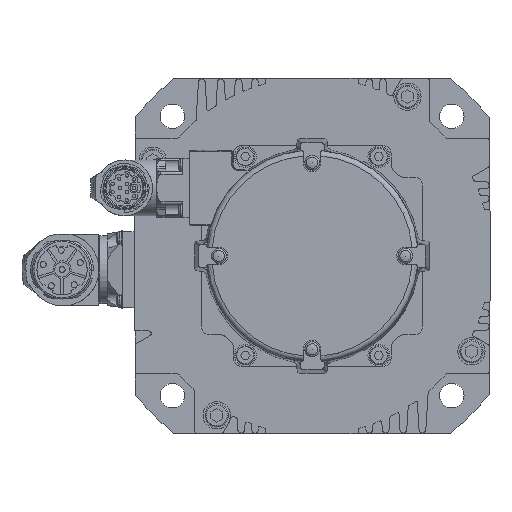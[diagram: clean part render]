
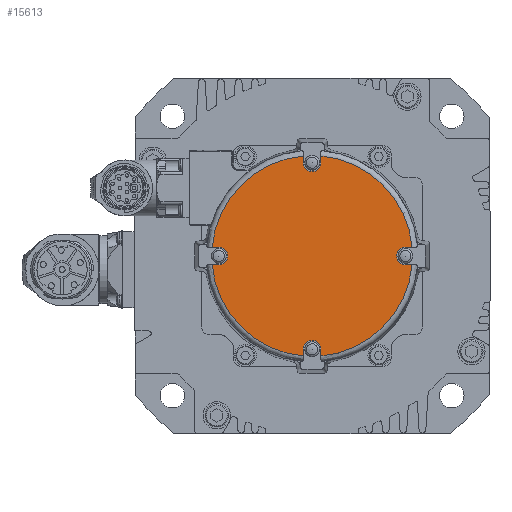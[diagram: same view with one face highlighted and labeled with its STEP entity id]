
A CAD part, left-side view. The second image highlights one B-rep face of the part: STEP entity #15613.
In plain terms, the highlighted planar face has unit normal (-1, 0, 0).
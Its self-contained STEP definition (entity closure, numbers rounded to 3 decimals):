
#697=LINE('',#23869,#1988);
#698=LINE('',#23873,#1989);
#699=LINE('',#23877,#1990);
#700=LINE('',#23881,#1991);
#701=LINE('',#23885,#1992);
#702=LINE('',#23889,#1993);
#703=LINE('',#23893,#1994);
#704=LINE('',#23897,#1995);
#1988=VECTOR('',#18530,1000.);
#1989=VECTOR('',#18533,1000.);
#1990=VECTOR('',#18536,1000.);
#1991=VECTOR('',#18539,1000.);
#1992=VECTOR('',#18542,1000.);
#1993=VECTOR('',#18545,1000.);
#1994=VECTOR('',#18548,1000.);
#1995=VECTOR('',#18551,1000.);
#3339=ORIENTED_EDGE('',*,*,#8089,.T.);
#3340=ORIENTED_EDGE('',*,*,#8090,.F.);
#3341=ORIENTED_EDGE('',*,*,#8091,.F.);
#3342=ORIENTED_EDGE('',*,*,#8092,.F.);
#3343=ORIENTED_EDGE('',*,*,#8093,.T.);
#3344=ORIENTED_EDGE('',*,*,#8094,.F.);
#3345=ORIENTED_EDGE('',*,*,#8095,.F.);
#3346=ORIENTED_EDGE('',*,*,#8096,.F.);
#3347=ORIENTED_EDGE('',*,*,#8097,.T.);
#3348=ORIENTED_EDGE('',*,*,#8098,.F.);
#3349=ORIENTED_EDGE('',*,*,#8099,.F.);
#3350=ORIENTED_EDGE('',*,*,#8100,.F.);
#3351=ORIENTED_EDGE('',*,*,#8101,.T.);
#3352=ORIENTED_EDGE('',*,*,#8102,.F.);
#3353=ORIENTED_EDGE('',*,*,#8103,.F.);
#3354=ORIENTED_EDGE('',*,*,#8104,.F.);
#8089=EDGE_CURVE('',#10464,#10465,#12032,.T.);
#8090=EDGE_CURVE('',#10466,#10465,#697,.T.);
#8091=EDGE_CURVE('',#10467,#10466,#12033,.T.);
#8092=EDGE_CURVE('',#10468,#10467,#698,.T.);
#8093=EDGE_CURVE('',#10468,#10469,#12034,.T.);
#8094=EDGE_CURVE('',#10470,#10469,#699,.T.);
#8095=EDGE_CURVE('',#10471,#10470,#12035,.T.);
#8096=EDGE_CURVE('',#10472,#10471,#700,.T.);
#8097=EDGE_CURVE('',#10472,#10473,#12036,.T.);
#8098=EDGE_CURVE('',#10474,#10473,#701,.T.);
#8099=EDGE_CURVE('',#10475,#10474,#12037,.T.);
#8100=EDGE_CURVE('',#10476,#10475,#702,.T.);
#8101=EDGE_CURVE('',#10476,#10477,#12038,.T.);
#8102=EDGE_CURVE('',#10478,#10477,#703,.T.);
#8103=EDGE_CURVE('',#10479,#10478,#12039,.T.);
#8104=EDGE_CURVE('',#10464,#10479,#704,.T.);
#10464=VERTEX_POINT('',#23867);
#10465=VERTEX_POINT('',#23868);
#10466=VERTEX_POINT('',#23870);
#10467=VERTEX_POINT('',#23872);
#10468=VERTEX_POINT('',#23874);
#10469=VERTEX_POINT('',#23876);
#10470=VERTEX_POINT('',#23878);
#10471=VERTEX_POINT('',#23880);
#10472=VERTEX_POINT('',#23882);
#10473=VERTEX_POINT('',#23884);
#10474=VERTEX_POINT('',#23886);
#10475=VERTEX_POINT('',#23888);
#10476=VERTEX_POINT('',#23890);
#10477=VERTEX_POINT('',#23892);
#10478=VERTEX_POINT('',#23894);
#10479=VERTEX_POINT('',#23896);
#12032=CIRCLE('',#16607,3.25);
#12033=CIRCLE('',#16608,36.85);
#12034=CIRCLE('',#16609,3.25);
#12035=CIRCLE('',#16610,36.85);
#12036=CIRCLE('',#16611,3.25);
#12037=CIRCLE('',#16612,36.85);
#12038=CIRCLE('',#16613,3.25);
#12039=CIRCLE('',#16614,36.85);
#12924=EDGE_LOOP('',(#3339,#3340,#3341,#3342,#3343,#3344,#3345,#3346,#3347,
#3348,#3349,#3350,#3351,#3352,#3353,#3354));
#14034=FACE_BOUND('',#12924,.T.);
#15138=PLANE('',#16606);
#15613=ADVANCED_FACE('',(#14034),#15138,.F.);
#16606=AXIS2_PLACEMENT_3D('',#23865,#18526,#18527);
#16607=AXIS2_PLACEMENT_3D('',#23866,#18528,#18529);
#16608=AXIS2_PLACEMENT_3D('',#23871,#18531,#18532);
#16609=AXIS2_PLACEMENT_3D('',#23875,#18534,#18535);
#16610=AXIS2_PLACEMENT_3D('',#23879,#18537,#18538);
#16611=AXIS2_PLACEMENT_3D('',#23883,#18540,#18541);
#16612=AXIS2_PLACEMENT_3D('',#23887,#18543,#18544);
#16613=AXIS2_PLACEMENT_3D('',#23891,#18546,#18547);
#16614=AXIS2_PLACEMENT_3D('',#23895,#18549,#18550);
#18526=DIRECTION('',(1.,0.,0.));
#18527=DIRECTION('',(0.,0.,-1.));
#18528=DIRECTION('',(1.,0.,0.));
#18529=DIRECTION('',(0.,0.,-1.));
#18530=DIRECTION('',(0.,-1.,0.));
#18531=DIRECTION('',(1.,0.,0.));
#18532=DIRECTION('',(0.,0.,-1.));
#18533=DIRECTION('',(0.,0.,-1.));
#18534=DIRECTION('',(1.,0.,0.));
#18535=DIRECTION('',(0.,0.,-1.));
#18536=DIRECTION('',(0.,0.,1.));
#18537=DIRECTION('',(1.,0.,0.));
#18538=DIRECTION('',(0.,0.,-1.));
#18539=DIRECTION('',(0.,-1.,0.));
#18540=DIRECTION('',(1.,0.,0.));
#18541=DIRECTION('',(0.,0.,-1.));
#18542=DIRECTION('',(0.,1.,0.));
#18543=DIRECTION('',(1.,0.,0.));
#18544=DIRECTION('',(0.,0.,-1.));
#18545=DIRECTION('',(0.,0.,1.));
#18546=DIRECTION('',(1.,0.,0.));
#18547=DIRECTION('',(0.,0.,-1.));
#18548=DIRECTION('',(0.,0.,-1.));
#18549=DIRECTION('',(1.,0.,0.));
#18550=DIRECTION('',(0.,0.,-1.));
#18551=DIRECTION('',(0.,1.,0.));
#23865=CARTESIAN_POINT('',(-177.,0.,0.));
#23866=CARTESIAN_POINT('',(-177.,34.25,0.));
#23867=CARTESIAN_POINT('',(-177.,34.25,3.25));
#23868=CARTESIAN_POINT('',(-177.,34.25,-3.25));
#23869=CARTESIAN_POINT('',(-177.,38.166,-3.25));
#23870=CARTESIAN_POINT('',(-177.,36.706,-3.25));
#23871=CARTESIAN_POINT('',(-177.,0.,0.));
#23872=CARTESIAN_POINT('',(-177.,3.25,-36.706));
#23873=CARTESIAN_POINT('',(-177.,3.25,-34.25));
#23874=CARTESIAN_POINT('',(-177.,3.25,-34.25));
#23875=CARTESIAN_POINT('',(-177.,0.,-34.25));
#23876=CARTESIAN_POINT('',(-177.,-3.25,-34.25));
#23877=CARTESIAN_POINT('',(-177.,-3.25,-38.166));
#23878=CARTESIAN_POINT('',(-177.,-3.25,-36.706));
#23879=CARTESIAN_POINT('',(-177.,0.,0.));
#23880=CARTESIAN_POINT('',(-177.,-36.706,-3.25));
#23881=CARTESIAN_POINT('',(-177.,-34.25,-3.25));
#23882=CARTESIAN_POINT('',(-177.,-34.25,-3.25));
#23883=CARTESIAN_POINT('',(-177.,-34.25,0.));
#23884=CARTESIAN_POINT('',(-177.,-34.25,3.25));
#23885=CARTESIAN_POINT('',(-177.,-38.166,3.25));
#23886=CARTESIAN_POINT('',(-177.,-36.706,3.25));
#23887=CARTESIAN_POINT('',(-177.,0.,0.));
#23888=CARTESIAN_POINT('',(-177.,-3.25,36.706));
#23889=CARTESIAN_POINT('',(-177.,-3.25,34.25));
#23890=CARTESIAN_POINT('',(-177.,-3.25,34.25));
#23891=CARTESIAN_POINT('',(-177.,0.,34.25));
#23892=CARTESIAN_POINT('',(-177.,3.25,34.25));
#23893=CARTESIAN_POINT('',(-177.,3.25,38.166));
#23894=CARTESIAN_POINT('',(-177.,3.25,36.706));
#23895=CARTESIAN_POINT('',(-177.,0.,0.));
#23896=CARTESIAN_POINT('',(-177.,36.706,3.25));
#23897=CARTESIAN_POINT('',(-177.,34.25,3.25));
